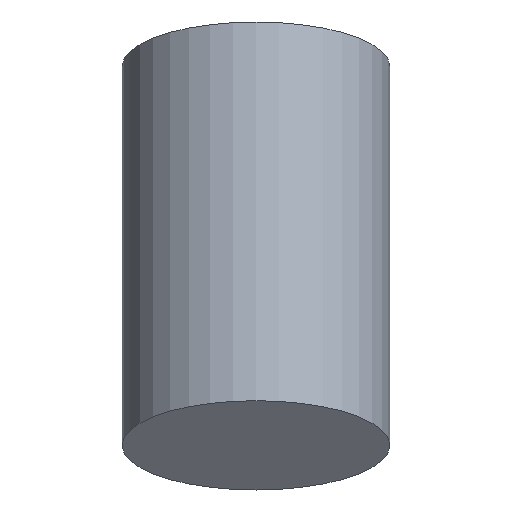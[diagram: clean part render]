
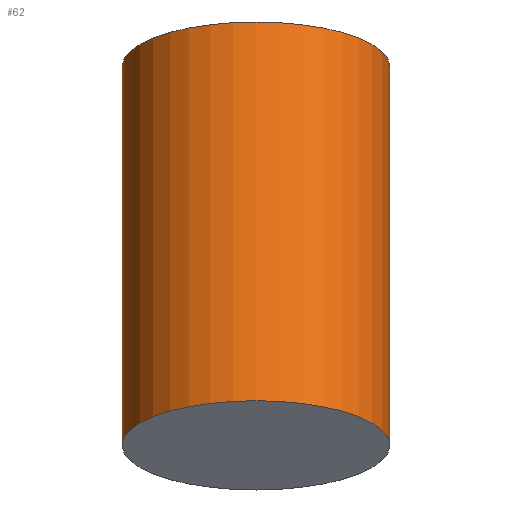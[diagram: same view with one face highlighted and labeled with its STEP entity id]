
A CAD part, isometric view. The second image highlights one B-rep face of the part: STEP entity #62.
In plain terms, the highlighted cylindrical face has radius 10 mm (diameter 20 mm), a full revolution.
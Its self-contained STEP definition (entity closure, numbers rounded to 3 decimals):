
#26=CARTESIAN_POINT('',(0.0,0.0,0.0));
#27=DIRECTION('',(0.0,0.0,1.0));
#28=DIRECTION('',(1.0,0.0,0.0));
#29=AXIS2_PLACEMENT_3D('',#26,#27,#28);
#30=CIRCLE('',#29,10.0);
#31=CARTESIAN_POINT('',(10.0,0.0,0.0));
#32=VERTEX_POINT('',#31);
#33=EDGE_CURVE('',#32,#32,#30,.T.);
#34=CARTESIAN_POINT('',(0.0,0.0,30.0));
#35=DIRECTION('',(0.0,0.0,1.0));
#36=DIRECTION('',(1.0,0.0,0.0));
#37=AXIS2_PLACEMENT_3D('',#34,#35,#36);
#38=CIRCLE('',#37,10.0);
#39=CARTESIAN_POINT('',(10.0,0.0,30.0));
#40=VERTEX_POINT('',#39);
#41=EDGE_CURVE('',#40,#40,#38,.T.);
#51=CARTESIAN_POINT('',(0.0,0.0,0.0));
#52=DIRECTION('',(0.0,0.0,1.0));
#53=DIRECTION('',(1.0,0.0,0.0));
#54=AXIS2_PLACEMENT_3D('',#51,#52,#53);
#55=CYLINDRICAL_SURFACE('',#54,10.0);
#56=ORIENTED_EDGE('',*,*,#33,.T.);
#57=EDGE_LOOP('',(#56));
#58=ORIENTED_EDGE('',*,*,#41,.F.);
#59=EDGE_LOOP('',(#58));
#60=FACE_OUTER_BOUND('',#57,.T.);
#61=FACE_BOUND('',#59,.T.);
#62=ADVANCED_FACE('',(#60,#61),#55,.T.);
